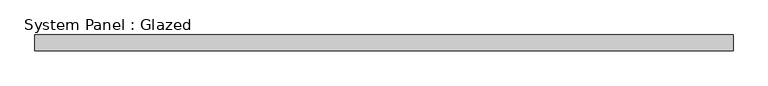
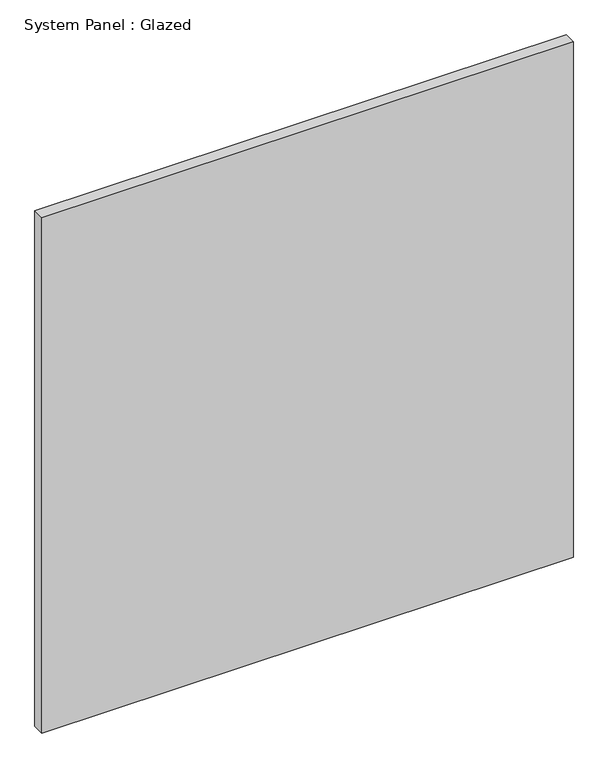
"""IFC4 building model written with IfcOpenShell, lengths in millimetres: plate geometry, System Panel : Glazed."""

from ifc_helpers import new_model, si_unit, origin, origin_with_axes, place, context, project, spatial, polyline, outline, extrude, source, transform, mapped, element, save


def system_panel_glazed_77fd207e(model_context):
    return source(origin(), model_context, "Body", "SweptSolid", [
        extrude(outline(polyline([(557.7829147, 19.05), (-557.7829147, 19.05), (-557.7829147, 44.45), (557.7829147, 44.45), (557.7829147, 19.05)])), origin_with_axes(), (0.0, 0.0, 1.0), 1143.0),
    ])


if __name__ == "__main__":
    model = new_model("IFC4")
    model_context = context("Model", 3, world=origin())
    ifc_project = project(units=[si_unit("LENGTHUNIT", "METRE", prefix="MILLI")], contexts=[model_context])
    site = spatial("IfcSite", under=ifc_project)
    building = spatial("IfcBuilding", under=site)
    placement = place(None, origin())
    system_panel_glazed_shape = system_panel_glazed_77fd207e(model_context)
    element("IfcPlate", 1, ObjectType="System Panel : Glazed", at=placement, inside=building, context=model_context, shape_type="MappedRepresentation", body=[
        mapped(system_panel_glazed_shape, transform((0.0, 0.0, 0.0), x_axis=(1.0, 0.0, 0.0), y_axis=(0.0, 1.0, 0.0), z_axis=(0.0, 0.0, 1.0))),
    ])
    save(model, "model.ifc")
